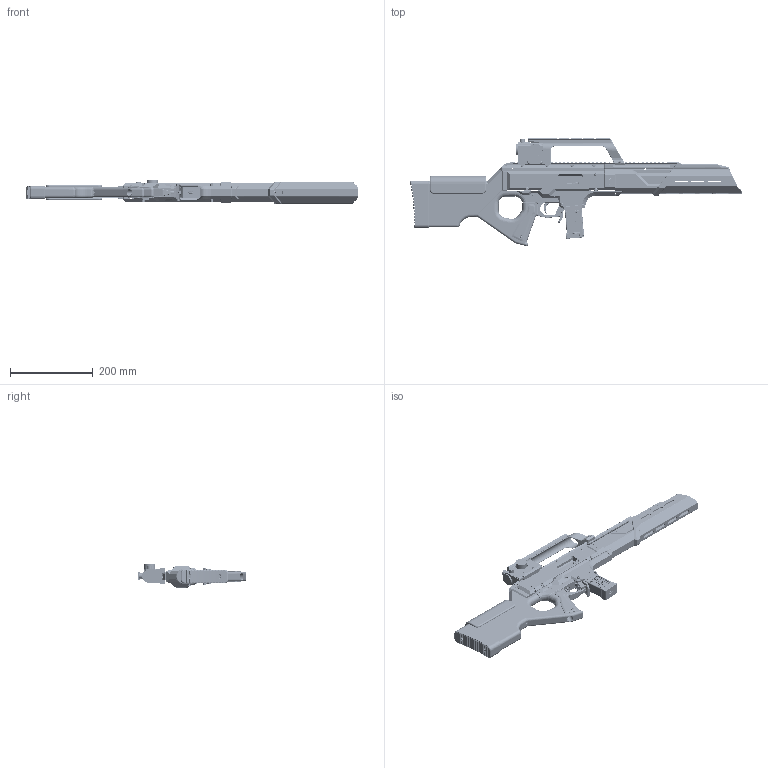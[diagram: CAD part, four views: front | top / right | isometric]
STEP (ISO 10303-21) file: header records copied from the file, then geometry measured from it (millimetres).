
FILE_DESCRIPTION(/* description */ (''),/* implementation_level */ (''),FILE_NAME(/* name */ (''),/* author */ (''),/* organization */ (''),/* preprocessor_version */ (''),/* originating_system */ (''),/* authorisation */ '');
FILE_NAME(/* name */ (''),/* author */ (''),/* organization */ (''),/* preprocessor_version */ (''),/* originating_system */ (''),/* authorisation */ '');
FILE_SCHEMA (('AUTOMOTIVE_DESIGN { 1 0 10303 214 3 1 1 }'));
Products named in the file (67): ScARpion22 2055 - Release Candidate v1.0; 2055 - Carbine Handguard A - AWCY Free Float; 2055 - Carbine Handguard A - HBI Free Float; Cap Head; Pan Head; 2055 - Carbine Handguard B - Wide; 2055 - Thumbhole Stock Assembly; 2055 - Cheek Riser; 91290A176_BLACK-OXIDE CLASS 12.9 SOCKET HEAD CAP SCREW; Cheek Riser (1); 2055 - Buttpad; 2055 - Stock Body; 2055 - Stock Grip; 2055 - Right Panel; 2055 - Left Panel; 2055 - QD PIC Rail End Plate; 2055 - PintyCarryingHandle Assembly; 2055 - Carry Handle; 2055 - Carry Handle - Long Clamp; 2055 - Carry Handle - Short Clamp; Pinty Optic; Fasteners; Fastener Pair 40mm; Fastener Pair 40mm Front; Fastener Pair 40mm Front Lower; 91290A184 (1); Fastener Pair 35mm - Retainer; Fasteners - 35mm - Takedown; Fastener Pair 25mm; 91290A176_BLACK-OXIDE CLASS 12.9 SOCKET HEAD CAP SCREW (1); Fastener Pair 16mm; Fastener Pair 16mm (1); Fastener Pair 16mm (2); Fastener Pair 16mm (3); 91290A154_BLACK-OXIDE CLASS 12.9 SOCKET HEAD CAP SCREW (1); Fastener Pair 35mm; 91290A182_BLACK-OXIDE CLASS 12.9 SOCKET HEAD CAP SCREW (1); 90819A111 (1); Fasteners (New); 91290A154_BLACK-OXIDE CLASS 12.9 SOCKET HEAD CAP SCREW (2)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
Assembly tree (96 placements, depth 4):
  ScARpion22 2055 - Release Candidate v1.0
    2055 - Carbine Handguard A - AWCY Free Float
    2055 - Carbine Handguard A - HBI Free Float
      Cap Head
      Pan Head
    2055 - Carbine Handguard B - Wide
    2055 - Thumbhole Stock Assembly
      2055 - Cheek Riser
        91290A176_BLACK-OXIDE CLASS 12.9 SOCKET HEAD CAP SCREW  x2
        Cheek Riser (1)
      2055 - Buttpad
      2055 - Stock Body
      2055 - Stock Grip
      2055 - Right Panel
      2055 - Left Panel
    2055 - QD PIC Rail End Plate
    2055 - PintyCarryingHandle Assembly
      2055 - Carry Handle
      2055 - Carry Handle - Long Clamp
      2055 - Carry Handle - Short Clamp
    Pinty Optic
    Fasteners
      Fastener Pair 40mm
        90819A111 (1)
        91290A184 (1)
      Fastener Pair 40mm Front
        91290A184 (1)
        90819A111 (1)
      Fastener Pair 40mm Front Lower
        90819A111 (1)
        91290A184 (1)
      Fastener Pair 35mm - Retainer
        91290A182_BLACK-OXIDE CLASS 12.9 SOCKET HEAD CAP SCREW (1)
        90819A111 (1)
      Fasteners - 35mm - Takedown
        90819A111 (1)  x2
        91290A182_BLACK-OXIDE CLASS 12.9 SOCKET HEAD CAP SCREW (1)
      Fastener Pair 25mm
        91290A176_BLACK-OXIDE CLASS 12.9 SOCKET HEAD CAP SCREW (1)
        90819A111 (1)
      Fastener Pair 16mm
        91290A154_BLACK-OXIDE CLASS 12.9 SOCKET HEAD CAP SCREW (1)
        90819A111 (1)
      Fastener Pair 16mm (1)
        91290A154_BLACK-OXIDE CLASS 12.9 SOCKET HEAD CAP SCREW (1)
        90819A111 (1)
      Fastener Pair 16mm (2)
        91290A154_BLACK-OXIDE CLASS 12.9 SOCKET HEAD CAP SCREW (1)
        90819A111 (1)
      Fastener Pair 16mm (3)
        91290A154_BLACK-OXIDE CLASS 12.9 SOCKET HEAD CAP SCREW (1)
        90819A111 (1)
      Fastener Pair 35mm
        91290A182_BLACK-OXIDE CLASS 12.9 SOCKET HEAD CAP SCREW (1)
        90819A111 (1)
    Fasteners (New)
      91290A154_BLACK-OXIDE CLASS 12.9 SOCKET HEAD CAP SCREW (2)  x2
      91239A144_CLASS 10.9 STL BUTTON-HEAD SOCKET CAP SCREW_91239A144 (1)  x4
      97654A676_18-8 Stainless Steel Flanged Button Head Screw(Mirror) (1)
      97654A676_18-8 Stainless Steel Flanged Button Head Screw (1)
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Bounding box: 801 x 261.45 x 55.78 mm (x, y, z)
Volume: 2219389.5 mm3; surface area: 713874.9 mm2
Topology: 103 solids, 103 shells, 12689 faces, 32750 edges, 20743 vertices
Faces by surface type: plane 6344, cylinder 4007, bspline 903, cone 735, sphere 361, torus 339
Full cylindrical faces by diameter (mm): 2.35 x40, 2.5 x4, 2.8 x1, 3 x36, 3.091 x642, 3.1 x2, 3.175 x2, 3.359 x15, 3.4 x5, 3.441 x75, 3.469 x4, 3.7 x4, 3.8 x2, 3.9 x2, 3.962 x3, 3.969 x6, 4 x746, 4.013 x2, 4.073 x3, 4.088 x2, 4.2 x3, 4.216 x1, 4.25 x19, 4.297 x1, 4.346 x15, 4.5 x5, 4.605 x1, 5 x10, 5.232 x1, 6.5 x4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
Entity records: 437343 total; most frequent: CARTESIAN_POINT 180791, ORIENTED_EDGE 54914, DIRECTION 49812, EDGE_CURVE 27457, LINE 18782, VECTOR 18782, VERTEX_POINT 17484, AXIS2_PLACEMENT_3D 15515
